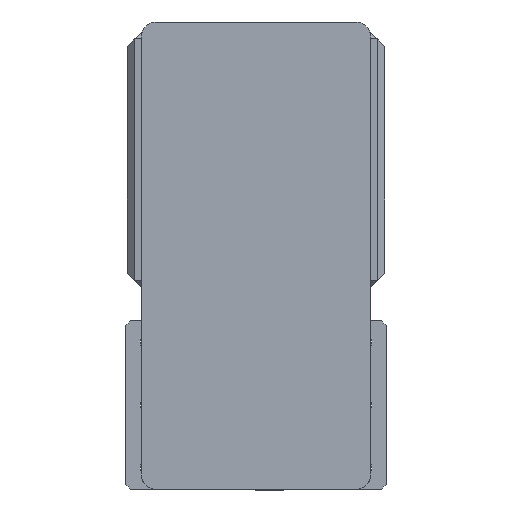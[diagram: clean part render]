
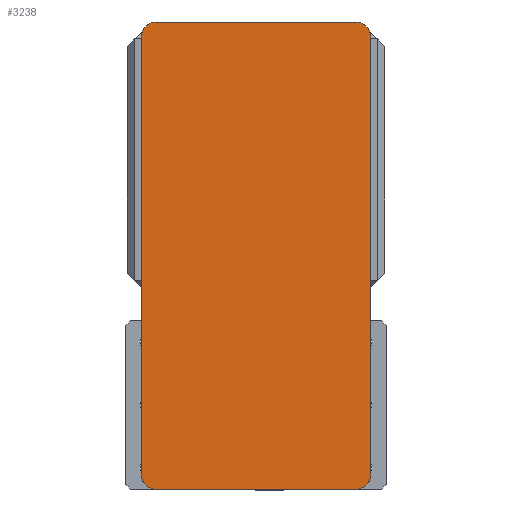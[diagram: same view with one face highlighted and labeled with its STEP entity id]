
A CAD part, left-side view. The second image highlights one B-rep face of the part: STEP entity #3238.
In plain terms, the highlighted planar face has unit normal (-1, 0, 0) as drawn and (0, 0, 1) by its records, which use the part's own axes.
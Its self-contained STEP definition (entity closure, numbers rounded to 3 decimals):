
#109 = CARTESIAN_POINT ( 'NONE',  ( -65., -152.5, 105. ) ) ;
#891 = EDGE_CURVE ( 'NONE', #8513, #20393, #16978, .T. ) ;
#1374 = VECTOR ( 'NONE', #8167, 1000. ) ;
#1381 = ORIENTED_EDGE ( 'NONE', *, *, #2407, .T. ) ;
#1630 = ORIENTED_EDGE ( 'NONE', *, *, #891, .T. ) ;
#1740 = DIRECTION ( 'NONE',  ( 1., 0., 0. ) ) ;
#2056 = AXIS2_PLACEMENT_3D ( 'NONE', #15270, #4723, #17044 ) ;
#2098 = CIRCLE ( 'NONE', #10595, 10. ) ;
#2241 = EDGE_CURVE ( 'NONE', #6689, #12574, #7303, .T. ) ;
#2407 = EDGE_CURVE ( 'NONE', #18321, #5531, #5088, .T. ) ;
#3238 = ADVANCED_FACE ( 'NONE', ( #21733 ), #12762, .T. ) ;
#3404 = ORIENTED_EDGE ( 'NONE', *, *, #15897, .T. ) ;
#4622 = CARTESIAN_POINT ( 'NONE',  ( -75., 152.5, 105. ) ) ;
#4723 = DIRECTION ( 'NONE',  ( 0., 0., 1. ) ) ;
#5088 = CIRCLE ( 'NONE', #13908, 10. ) ;
#5531 = VERTEX_POINT ( 'NONE', #22029 ) ;
#5697 = VECTOR ( 'NONE', #14429, 1000. ) ;
#5905 = CARTESIAN_POINT ( 'NONE',  ( 0., 0., 105. ) ) ;
#6074 = LINE ( 'NONE', #4622, #1374 ) ;
#6477 = VECTOR ( 'NONE', #1740, 1000. ) ;
#6601 = CARTESIAN_POINT ( 'NONE',  ( 65., 152.5, 105. ) ) ;
#6689 = VERTEX_POINT ( 'NONE', #8755 ) ;
#7303 = CIRCLE ( 'NONE', #2056, 10. ) ;
#7452 = VERTEX_POINT ( 'NONE', #21110 ) ;
#7466 = EDGE_CURVE ( 'NONE', #12574, #8513, #10609, .T. ) ;
#8167 = DIRECTION ( 'NONE',  ( 0., -1., 0. ) ) ;
#8513 = VERTEX_POINT ( 'NONE', #20817 ) ;
#8755 = CARTESIAN_POINT ( 'NONE',  ( -75., -142.5, 105. ) ) ;
#9402 = ORIENTED_EDGE ( 'NONE', *, *, #19818, .T. ) ;
#9453 = DIRECTION ( 'NONE',  ( 0., 0., 1. ) ) ;
#9482 = AXIS2_PLACEMENT_3D ( 'NONE', #5905, #9453, #21773 ) ;
#10264 = CARTESIAN_POINT ( 'NONE',  ( 65., 142.5, 105. ) ) ;
#10280 = DIRECTION ( 'NONE',  ( 0., 0., 1. ) ) ;
#10402 = LINE ( 'NONE', #12651, #5697 ) ;
#10516 = CARTESIAN_POINT ( 'NONE',  ( -75., 152.5, 105. ) ) ;
#10576 = CARTESIAN_POINT ( 'NONE',  ( -75., -152.5, 105. ) ) ;
#10595 = AXIS2_PLACEMENT_3D ( 'NONE', #10264, #22588, #12025 ) ;
#10609 = LINE ( 'NONE', #10576, #6477 ) ;
#11994 = EDGE_CURVE ( 'NONE', #20393, #7452, #10402, .T. ) ;
#12025 = DIRECTION ( 'NONE',  ( 1., 0., 0. ) ) ;
#12574 = VERTEX_POINT ( 'NONE', #109 ) ;
#12651 = CARTESIAN_POINT ( 'NONE',  ( 75., 152.5, 105. ) ) ;
#12762 = PLANE ( 'NONE',  #9482 ) ;
#13301 = EDGE_CURVE ( 'NONE', #22605, #18321, #18893, .T. ) ;
#13802 = EDGE_LOOP ( 'NONE', ( #18932, #1630, #14395, #9402, #15161, #1381, #3404, #19918 ) ) ;
#13908 = AXIS2_PLACEMENT_3D ( 'NONE', #20808, #10280, #22611 ) ;
#13923 = CARTESIAN_POINT ( 'NONE',  ( -65., 152.5, 105. ) ) ;
#14214 = VECTOR ( 'NONE', #22836, 1000. ) ;
#14395 = ORIENTED_EDGE ( 'NONE', *, *, #11994, .T. ) ;
#14429 = DIRECTION ( 'NONE',  ( 0., 1., 0. ) ) ;
#15161 = ORIENTED_EDGE ( 'NONE', *, *, #13301, .T. ) ;
#15270 = CARTESIAN_POINT ( 'NONE',  ( -65., -142.5, 105. ) ) ;
#15897 = EDGE_CURVE ( 'NONE', #5531, #6689, #6074, .T. ) ;
#16978 = CIRCLE ( 'NONE', #19950, 10. ) ;
#17044 = DIRECTION ( 'NONE',  ( 1., 0., 0. ) ) ;
#18321 = VERTEX_POINT ( 'NONE', #13923 ) ;
#18893 = LINE ( 'NONE', #10516, #14214 ) ;
#18932 = ORIENTED_EDGE ( 'NONE', *, *, #7466, .T. ) ;
#19818 = EDGE_CURVE ( 'NONE', #7452, #22605, #2098, .T. ) ;
#19918 = ORIENTED_EDGE ( 'NONE', *, *, #2241, .T. ) ;
#19950 = AXIS2_PLACEMENT_3D ( 'NONE', #21635, #21564, #21710 ) ;
#20393 = VERTEX_POINT ( 'NONE', #21058 ) ;
#20808 = CARTESIAN_POINT ( 'NONE',  ( -65., 142.5, 105. ) ) ;
#20817 = CARTESIAN_POINT ( 'NONE',  ( 65., -152.5, 105. ) ) ;
#21058 = CARTESIAN_POINT ( 'NONE',  ( 75., -142.5, 105. ) ) ;
#21110 = CARTESIAN_POINT ( 'NONE',  ( 75., 142.5, 105. ) ) ;
#21564 = DIRECTION ( 'NONE',  ( 0., 0., 1. ) ) ;
#21635 = CARTESIAN_POINT ( 'NONE',  ( 65., -142.5, 105. ) ) ;
#21710 = DIRECTION ( 'NONE',  ( 1., 0., 0. ) ) ;
#21733 = FACE_OUTER_BOUND ( 'NONE', #13802, .T. ) ;
#21773 = DIRECTION ( 'NONE',  ( 1., 0., 0. ) ) ;
#22029 = CARTESIAN_POINT ( 'NONE',  ( -75., 142.5, 105. ) ) ;
#22588 = DIRECTION ( 'NONE',  ( 0., 0., 1. ) ) ;
#22605 = VERTEX_POINT ( 'NONE', #6601 ) ;
#22611 = DIRECTION ( 'NONE',  ( 1., 0., 0. ) ) ;
#22836 = DIRECTION ( 'NONE',  ( -1., 0., 0. ) ) ;
